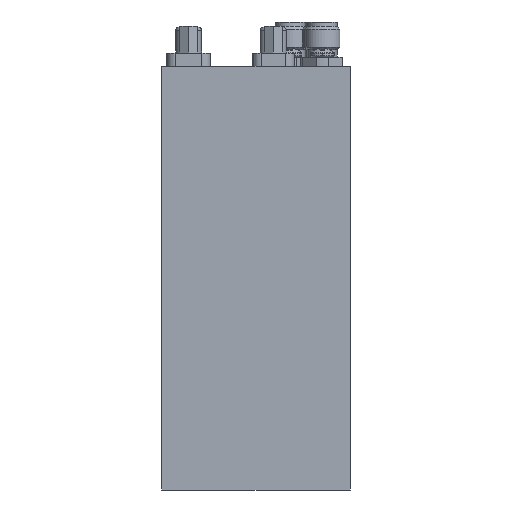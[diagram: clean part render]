
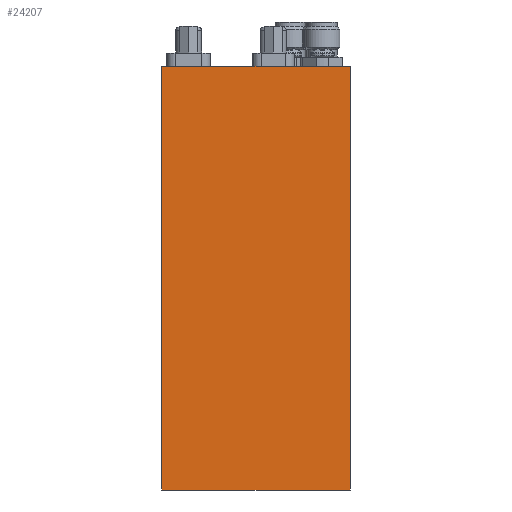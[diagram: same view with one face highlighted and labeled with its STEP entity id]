
A CAD part, left-side view. The second image highlights one B-rep face of the part: STEP entity #24207.
In plain terms, the highlighted planar face has unit normal (-1, 0, 0).
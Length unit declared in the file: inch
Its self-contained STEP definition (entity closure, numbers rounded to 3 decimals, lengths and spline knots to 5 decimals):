
#1622 = EDGE_CURVE ( 'NONE', #24754, #5804, #60650, .T. ) ;
#3551 = VECTOR ( 'NONE', #20527, 39.37008 ) ;
#4517 = EDGE_CURVE ( 'NONE', #35331, #13904, #67676, .T. ) ;
#4591 = EDGE_CURVE ( 'NONE', #24754, #35331, #74277, .T. ) ;
#5804 = VERTEX_POINT ( 'NONE', #31795 ) ;
#8080 = FACE_OUTER_BOUND ( 'NONE', #25563, .T. ) ;
#9521 = AXIS2_PLACEMENT_3D ( 'NONE', #72019, #35912, #78065 ) ;
#13196 = CARTESIAN_POINT ( 'NONE',  ( -2., 1.33333, 1.5 ) ) ;
#13904 = VERTEX_POINT ( 'NONE', #67673 ) ;
#17182 = PLANE ( 'NONE',  #9521 ) ;
#18206 = CARTESIAN_POINT ( 'NONE',  ( -2., 0., -1.5 ) ) ;
#19813 = VECTOR ( 'NONE', #24310, 39.37008 ) ;
#20527 = DIRECTION ( 'NONE',  ( 0., -1., 0. ) ) ;
#24207 = ADVANCED_FACE ( 'NONE', ( #8080 ), #17182, .F. ) ;
#24310 = DIRECTION ( 'NONE',  ( 0., 0., 1. ) ) ;
#24754 = VERTEX_POINT ( 'NONE', #67928 ) ;
#25563 = EDGE_LOOP ( 'NONE', ( #67091, #72949, #76160, #32521 ) ) ;
#31795 = CARTESIAN_POINT ( 'NONE',  ( -2., 0., -1.5 ) ) ;
#32521 = ORIENTED_EDGE ( 'NONE', *, *, #1622, .T. ) ;
#32910 = CARTESIAN_POINT ( 'NONE',  ( -2., 1.33333, -1.5 ) ) ;
#35286 = EDGE_CURVE ( 'NONE', #5804, #13904, #67925, .T. ) ;
#35331 = VERTEX_POINT ( 'NONE', #13196 ) ;
#35912 = DIRECTION ( 'NONE',  ( 1., 0., 0. ) ) ;
#36875 = DIRECTION ( 'NONE',  ( 0., -1., 0. ) ) ;
#44579 = VECTOR ( 'NONE', #36875, 39.37008 ) ;
#56690 = CARTESIAN_POINT ( 'NONE',  ( -2., 1.33333, 1.5 ) ) ;
#57222 = DIRECTION ( 'NONE',  ( 0., 0., 1. ) ) ;
#59639 = CARTESIAN_POINT ( 'NONE',  ( -2., 1.33333, -1.5 ) ) ;
#60650 = LINE ( 'NONE', #59639, #44579 ) ;
#67091 = ORIENTED_EDGE ( 'NONE', *, *, #35286, .T. ) ;
#67673 = CARTESIAN_POINT ( 'NONE',  ( -2., 0., 1.5 ) ) ;
#67676 = LINE ( 'NONE', #56690, #3551 ) ;
#67925 = LINE ( 'NONE', #18206, #19813 ) ;
#67928 = CARTESIAN_POINT ( 'NONE',  ( -2., 1.33333, -1.5 ) ) ;
#72019 = CARTESIAN_POINT ( 'NONE',  ( -2., 1.33333, -1.5 ) ) ;
#72386 = VECTOR ( 'NONE', #57222, 39.37008 ) ;
#72949 = ORIENTED_EDGE ( 'NONE', *, *, #4517, .F. ) ;
#74277 = LINE ( 'NONE', #32910, #72386 ) ;
#76160 = ORIENTED_EDGE ( 'NONE', *, *, #4591, .F. ) ;
#78065 = DIRECTION ( 'NONE',  ( 0., 0., -1. ) ) ;
